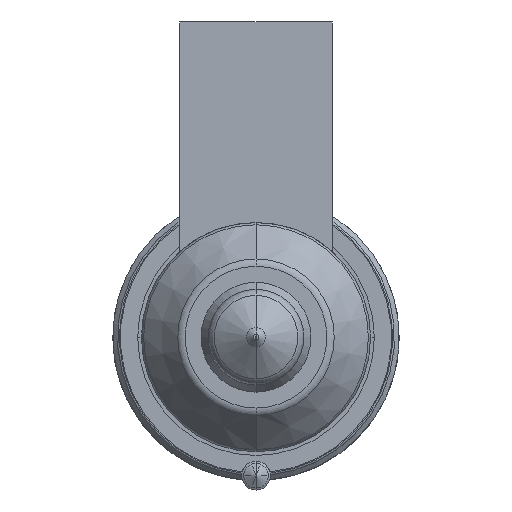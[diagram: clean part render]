
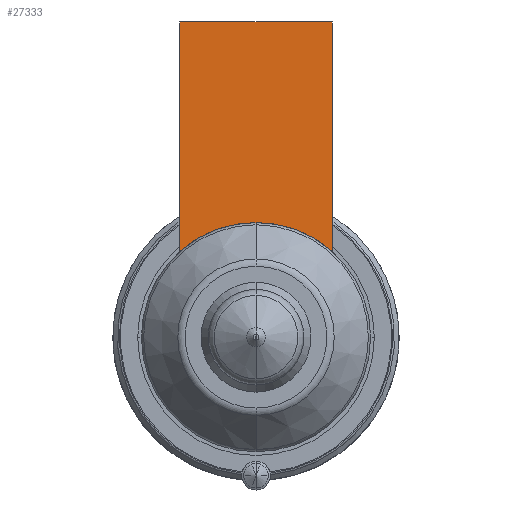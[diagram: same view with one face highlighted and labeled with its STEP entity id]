
A CAD part, front view. The second image highlights one B-rep face of the part: STEP entity #27333.
In plain terms, the highlighted planar face has unit normal (0, -1, 0).
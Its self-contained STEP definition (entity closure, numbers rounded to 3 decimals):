
#26483=DIRECTION('',(0.,0.,-1.));
#26484=VECTOR('',#26483,24.056);
#26485=CARTESIAN_POINT('',(-8.,-56.,33.));
#26486=LINE('',#26485,#26484);
#26523=DIRECTION('',(1.,0.,0.));
#26524=VECTOR('',#26523,16.);
#26525=CARTESIAN_POINT('',(-8.,-56.,33.));
#26526=LINE('',#26525,#26524);
#26530=CARTESIAN_POINT('',(0.,-56.,0.));
#26531=DIRECTION('',(0.,-1.,0.));
#26532=DIRECTION('',(0.667,0.,0.745));
#26533=AXIS2_PLACEMENT_3D('',#26530,#26531,#26532);
#26538=CARTESIAN_POINT('',(0.,-56.,0.));
#26539=DIRECTION('',(0.,-1.,0.));
#26540=DIRECTION('',(0.,0.,1.));
#26541=AXIS2_PLACEMENT_3D('',#26538,#26539,#26540);
#26574=DIRECTION('',(0.,0.,-1.));
#26575=VECTOR('',#26574,24.056);
#26576=CARTESIAN_POINT('',(8.,-56.,33.));
#26577=LINE('',#26576,#26575);
#27177=CARTESIAN_POINT('',(-8.,-56.,33.));
#27178=VERTEX_POINT('',#27177);
#27183=CARTESIAN_POINT('',(8.,-56.,33.));
#27184=VERTEX_POINT('',#27183);
#27187=CARTESIAN_POINT('',(-8.,-56.,8.944));
#27188=VERTEX_POINT('',#27187);
#27191=CARTESIAN_POINT('',(8.,-56.,8.944));
#27192=VERTEX_POINT('',#27191);
#27252=CARTESIAN_POINT('',(0.,-56.,12.));
#27253=VERTEX_POINT('',#27252);
#27318=CARTESIAN_POINT('',(-8.,-56.,33.));
#27319=DIRECTION('',(0.,-1.,0.));
#27320=DIRECTION('',(0.,0.,-1.));
#27321=AXIS2_PLACEMENT_3D('',#27318,#27319,#27320);
#27322=PLANE('',#27321);
#27323=ORIENTED_EDGE('',*,*,#27266,.F.);
#27325=ORIENTED_EDGE('',*,*,#27324,.T.);
#27327=ORIENTED_EDGE('',*,*,#27326,.T.);
#27329=ORIENTED_EDGE('',*,*,#27328,.T.);
#27330=ORIENTED_EDGE('',*,*,#27298,.T.);
#27331=EDGE_LOOP('',(#27323,#27325,#27327,#27329,#27330));
#27332=FACE_OUTER_BOUND('',#27331,.F.);
#27333=ADVANCED_FACE('',(#27332),#27322,.T.);
#26534=CIRCLE('',#26533,12.);
#26542=CIRCLE('',#26541,12.);
#27266=EDGE_CURVE('',#27178,#27188,#26486,.T.);
#27298=EDGE_CURVE('',#27253,#27188,#26542,.T.);
#27324=EDGE_CURVE('',#27178,#27184,#26526,.T.);
#27326=EDGE_CURVE('',#27184,#27192,#26577,.T.);
#27328=EDGE_CURVE('',#27192,#27253,#26534,.T.);
